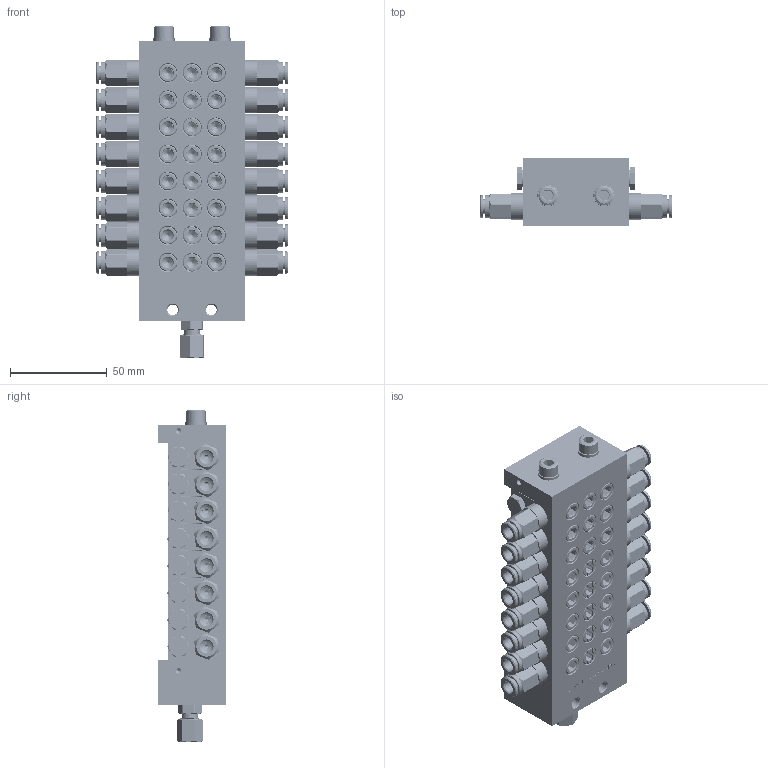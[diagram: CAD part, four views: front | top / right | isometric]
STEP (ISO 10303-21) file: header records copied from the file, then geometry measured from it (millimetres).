
FILE_DESCRIPTION (( 'STEP AP214' ), '1' );
FILE_NAME ('STW_XV_0143_16_0502_16_Auslässe.STEP', '2026-02-04T10:30:06', ( '' ), ( '' ), 'SwSTEP 2.0', 'SolidWorks 2022', '' );
FILE_SCHEMA (( 'AUTOMOTIVE_DESIGN' ));
Length unit declared in the file: millimetre
Products named in the file (18): DR6-C_HDX_25.07.16_1; 991214010601_Schneidring; STW_XV_Kolbenanschlag; M6X65_DIN_912; STW_XV_0143_16_0502_16_Auslässe; H200139_HDS01_6_M10X1_08.05.17; OR 7.66X1.78_1; STW_XV_END; XV_Mittelelement; 991214010601; 991214010601_Koerper; STW_XV_ENGANG; U_Scheibe_6; STW_XV_Verbindungsstopen; Verschlussstopfen_1_8_2; RIVOLUZIONE_0_2; 991214010601_Mutter; STW_XV_MITTEL_1
Assembly tree (58 placements, depth 3):
  STW_XV_0143_16_0502_16_Auslässe
    STW_XV_ENGANG
    STW_XV_MITTEL_1  x3
    STW_XV_END
    Verschlussstopfen_1_8_2  x6
    STW_XV_Kolbenanschlag  x6
    STW_XV_Verbindungsstopen  x3
    M6X65_DIN_912  x2
    U_Scheibe_6  x2
    991214010601
      991214010601_Koerper
      991214010601_Schneidring
      991214010601_Mutter
    XV_Mittelelement  x5
      STW_XV_MITTEL_1
      STW_XV_Kolbenanschlag
      Verschlussstopfen_1_8_2
      STW_XV_Verbindungsstopen
    H200139_HDS01_6_M10X1_08.05.17  x16
      OR 7.66X1.78_1
      DR6-C_HDX_25.07.16_1
      RIVOLUZIONE_0_2
Bounding box: 99.6 x 35 x 171.68 mm (x, y, z)
Volume: 263011.7 mm3; surface area: 160446.7 mm2
Topology: 105 solids, 105 shells, 3462 faces, 8971 edges, 5776 vertices
Faces by surface type: plane 1701, cylinder 849, cone 682, bspline 214, torus 16
Full cylindrical faces by diameter (mm): 2 x209, 3 x15, 4.2 x16, 4.5 x1, 5 x83, 5.5 x2, 5.9 x2, 6 x3, 6.2 x35, 6.3 x16, 6.4 x2, 6.5 x16, 7 x16, 7.2 x16, 7.4 x1, 7.67 x1, 8 x17, 8.3 x1, 8.4 x8, 8.5 x16, 8.6 x40, 9 x18, 9.7 x16, 9.73 x8, 9.8 x7, 9.9 x16, 10 x50, 10.3 x16, 11 x2, 11.5 x16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
Entity records: 44897 total; most frequent: CARTESIAN_POINT 22307, ORIENTED_EDGE 2994, DIRECTION 2641, EDGE_CURVE 1497, VERTEX_POINT 1072, EDGE_LOOP 1011, AXIS2_PLACEMENT_3D 947, FACE_OUTER_BOUND 812
